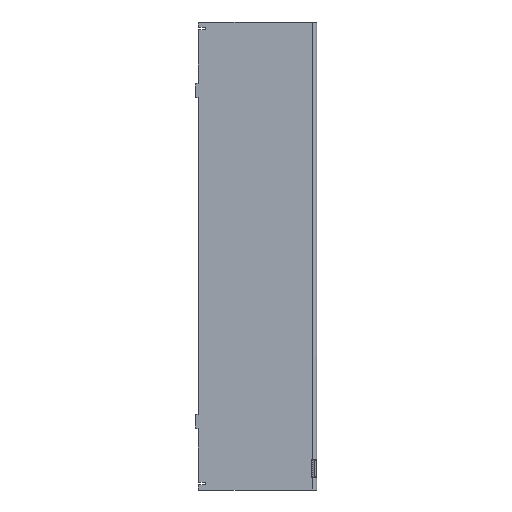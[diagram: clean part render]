
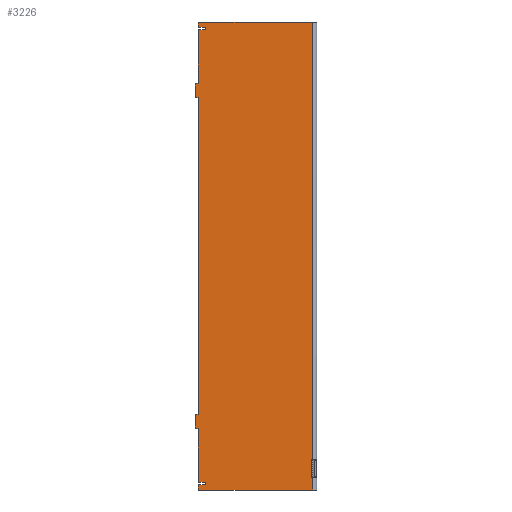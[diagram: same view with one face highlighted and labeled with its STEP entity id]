
A CAD part, left-side view. The second image highlights one B-rep face of the part: STEP entity #3226.
In plain terms, the highlighted planar face has unit normal (-1, 0, 0).
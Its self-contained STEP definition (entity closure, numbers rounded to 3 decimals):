
#33=DIRECTION('',(0.,-1.,0.));
#34=VECTOR('',#33,158.);
#35=CARTESIAN_POINT('',(-132.5,164.,-325.));
#36=LINE('',#35,#34);
#217=CARTESIAN_POINT('',(-132.5,6.,-283.5));
#218=DIRECTION('',(1.,0.,0.));
#219=DIRECTION('',(0.,1.,0.));
#220=AXIS2_PLACEMENT_3D('',#217,#218,#219);
#240=CARTESIAN_POINT('',(-132.5,6.,-306.5));
#241=DIRECTION('',(1.,0.,0.));
#242=DIRECTION('',(0.,0.,-1.));
#243=AXIS2_PLACEMENT_3D('',#240,#241,#242);
#318=DIRECTION('',(0.,0.,1.));
#319=VECTOR('',#318,607.5);
#320=CARTESIAN_POINT('',(-132.5,6.,-282.5));
#321=LINE('',#320,#319);
#331=DIRECTION('',(0.,0.,1.));
#332=VECTOR('',#331,17.5);
#333=CARTESIAN_POINT('',(-132.5,6.,-325.));
#334=LINE('',#333,#332);
#1079=DIRECTION('',(0.,0.,-1.));
#1080=VECTOR('',#1079,23.);
#1081=CARTESIAN_POINT('',(-132.5,7.,-283.5));
#1082=LINE('',#1081,#1080);
#1083=CARTESIAN_POINT('',(-132.5,164.,-324.));
#1084=DIRECTION('',(-1.,0.,0.));
#1085=DIRECTION('',(0.,1.,0.));
#1086=AXIS2_PLACEMENT_3D('',#1083,#1084,#1085);
#1088=DIRECTION('',(0.,0.,1.));
#1089=VECTOR('',#1088,5.);
#1090=CARTESIAN_POINT('',(-132.5,165.,-324.));
#1091=LINE('',#1090,#1089);
#1092=CARTESIAN_POINT('',(-132.5,164.,-319.));
#1093=DIRECTION('',(-1.,0.,0.));
#1094=DIRECTION('',(0.,0.,1.));
#1095=AXIS2_PLACEMENT_3D('',#1092,#1093,#1094);
#1097=DIRECTION('',(0.,-1.,0.));
#1098=VECTOR('',#1097,9.);
#1099=CARTESIAN_POINT('',(-132.5,164.,-318.));
#1100=LINE('',#1099,#1098);
#1101=DIRECTION('',(0.,0.,1.));
#1102=VECTOR('',#1101,4.);
#1103=CARTESIAN_POINT('',(-132.5,155.,-318.));
#1104=LINE('',#1103,#1102);
#1105=DIRECTION('',(0.,-1.,0.));
#1106=VECTOR('',#1105,9.);
#1107=CARTESIAN_POINT('',(-132.5,164.,-314.));
#1108=LINE('',#1107,#1106);
#1109=CARTESIAN_POINT('',(-132.5,164.,-313.));
#1110=DIRECTION('',(-1.,0.,0.));
#1111=DIRECTION('',(0.,1.,0.));
#1112=AXIS2_PLACEMENT_3D('',#1109,#1110,#1111);
#1114=DIRECTION('',(0.,0.,1.));
#1115=VECTOR('',#1114,73.);
#1116=CARTESIAN_POINT('',(-132.5,165.,-313.));
#1117=LINE('',#1116,#1115);
#1118=DIRECTION('',(0.,-1.,0.));
#1119=VECTOR('',#1118,3.);
#1120=CARTESIAN_POINT('',(-132.5,168.,-240.));
#1121=LINE('',#1120,#1119);
#1122=CARTESIAN_POINT('',(-132.5,168.,-239.));
#1123=DIRECTION('',(-1.,0.,0.));
#1124=DIRECTION('',(0.,1.,0.));
#1125=AXIS2_PLACEMENT_3D('',#1122,#1123,#1124);
#1127=DIRECTION('',(0.,0.,-1.));
#1128=VECTOR('',#1127,18.);
#1129=CARTESIAN_POINT('',(-132.5,169.,-221.));
#1130=LINE('',#1129,#1128);
#1131=CARTESIAN_POINT('',(-132.5,168.,-221.));
#1132=DIRECTION('',(-1.,0.,0.));
#1133=DIRECTION('',(0.,0.,1.));
#1134=AXIS2_PLACEMENT_3D('',#1131,#1132,#1133);
#1136=DIRECTION('',(0.,1.,0.));
#1137=VECTOR('',#1136,3.);
#1138=CARTESIAN_POINT('',(-132.5,165.,-220.));
#1139=LINE('',#1138,#1137);
#1140=DIRECTION('',(0.,0.,1.));
#1141=VECTOR('',#1140,440.);
#1142=CARTESIAN_POINT('',(-132.5,165.,-220.));
#1143=LINE('',#1142,#1141);
#1144=DIRECTION('',(0.,-1.,0.));
#1145=VECTOR('',#1144,3.);
#1146=CARTESIAN_POINT('',(-132.5,168.,220.));
#1147=LINE('',#1146,#1145);
#1148=CARTESIAN_POINT('',(-132.5,168.,221.));
#1149=DIRECTION('',(-1.,0.,0.));
#1150=DIRECTION('',(0.,1.,0.));
#1151=AXIS2_PLACEMENT_3D('',#1148,#1149,#1150);
#1153=DIRECTION('',(0.,0.,-1.));
#1154=VECTOR('',#1153,18.);
#1155=CARTESIAN_POINT('',(-132.5,169.,239.));
#1156=LINE('',#1155,#1154);
#1157=CARTESIAN_POINT('',(-132.5,168.,239.));
#1158=DIRECTION('',(-1.,0.,0.));
#1159=DIRECTION('',(0.,0.,1.));
#1160=AXIS2_PLACEMENT_3D('',#1157,#1158,#1159);
#1162=DIRECTION('',(0.,1.,0.));
#1163=VECTOR('',#1162,3.);
#1164=CARTESIAN_POINT('',(-132.5,165.,240.));
#1165=LINE('',#1164,#1163);
#1166=DIRECTION('',(0.,0.,1.));
#1167=VECTOR('',#1166,73.);
#1168=CARTESIAN_POINT('',(-132.5,165.,240.));
#1169=LINE('',#1168,#1167);
#1170=CARTESIAN_POINT('',(-132.5,164.,313.));
#1171=DIRECTION('',(-1.,0.,0.));
#1172=DIRECTION('',(0.,0.,1.));
#1173=AXIS2_PLACEMENT_3D('',#1170,#1171,#1172);
#1175=DIRECTION('',(0.,-1.,0.));
#1176=VECTOR('',#1175,9.);
#1177=CARTESIAN_POINT('',(-132.5,164.,314.));
#1178=LINE('',#1177,#1176);
#1179=DIRECTION('',(0.,0.,1.));
#1180=VECTOR('',#1179,4.);
#1181=CARTESIAN_POINT('',(-132.5,155.,314.));
#1182=LINE('',#1181,#1180);
#1183=DIRECTION('',(0.,-1.,0.));
#1184=VECTOR('',#1183,9.);
#1185=CARTESIAN_POINT('',(-132.5,164.,318.));
#1186=LINE('',#1185,#1184);
#1187=CARTESIAN_POINT('',(-132.5,164.,319.));
#1188=DIRECTION('',(-1.,0.,0.));
#1189=DIRECTION('',(0.,1.,0.));
#1190=AXIS2_PLACEMENT_3D('',#1187,#1188,#1189);
#1192=DIRECTION('',(0.,0.,1.));
#1193=VECTOR('',#1192,5.);
#1194=CARTESIAN_POINT('',(-132.5,165.,319.));
#1195=LINE('',#1194,#1193);
#1196=CARTESIAN_POINT('',(-132.5,164.,324.));
#1197=DIRECTION('',(-1.,0.,0.));
#1198=DIRECTION('',(0.,0.,1.));
#1199=AXIS2_PLACEMENT_3D('',#1196,#1197,#1198);
#1331=DIRECTION('',(0.,-1.,0.));
#1332=VECTOR('',#1331,158.);
#1333=CARTESIAN_POINT('',(-132.5,164.,325.));
#1334=LINE('',#1333,#1332);
#1397=CARTESIAN_POINT('',(-132.5,6.,-325.));
#1399=VERTEX_POINT('',#1397);
#1413=CARTESIAN_POINT('',(-132.5,6.,325.));
#1415=VERTEX_POINT('',#1413);
#1477=CARTESIAN_POINT('',(-132.5,155.,-318.));
#1478=CARTESIAN_POINT('',(-132.5,155.,-314.));
#1479=VERTEX_POINT('',#1477);
#1480=VERTEX_POINT('',#1478);
#1481=CARTESIAN_POINT('',(-132.5,155.,314.));
#1482=CARTESIAN_POINT('',(-132.5,155.,318.));
#1483=VERTEX_POINT('',#1481);
#1484=VERTEX_POINT('',#1482);
#1513=CARTESIAN_POINT('',(-132.5,164.,314.));
#1514=VERTEX_POINT('',#1513);
#1515=CARTESIAN_POINT('',(-132.5,165.,313.));
#1516=VERTEX_POINT('',#1515);
#1517=CARTESIAN_POINT('',(-132.5,165.,319.));
#1518=CARTESIAN_POINT('',(-132.5,164.,318.));
#1519=VERTEX_POINT('',#1517);
#1520=VERTEX_POINT('',#1518);
#1557=CARTESIAN_POINT('',(-132.5,165.,-313.));
#1558=CARTESIAN_POINT('',(-132.5,164.,-314.));
#1559=VERTEX_POINT('',#1557);
#1560=VERTEX_POINT('',#1558);
#1569=CARTESIAN_POINT('',(-132.5,164.,-318.));
#1570=VERTEX_POINT('',#1569);
#1571=CARTESIAN_POINT('',(-132.5,165.,-319.));
#1572=VERTEX_POINT('',#1571);
#1577=CARTESIAN_POINT('',(-132.5,165.,-324.));
#1578=VERTEX_POINT('',#1577);
#1579=CARTESIAN_POINT('',(-132.5,164.,-325.));
#1580=VERTEX_POINT('',#1579);
#1597=CARTESIAN_POINT('',(-132.5,164.,325.));
#1598=CARTESIAN_POINT('',(-132.5,165.,324.));
#1599=VERTEX_POINT('',#1597);
#1600=VERTEX_POINT('',#1598);
#1606=CARTESIAN_POINT('',(-132.5,165.,-220.));
#1608=VERTEX_POINT('',#1606);
#1610=CARTESIAN_POINT('',(-132.5,165.,-240.));
#1612=VERTEX_POINT('',#1610);
#1614=CARTESIAN_POINT('',(-132.5,165.,240.));
#1616=VERTEX_POINT('',#1614);
#1618=CARTESIAN_POINT('',(-132.5,165.,220.));
#1620=VERTEX_POINT('',#1618);
#1737=CARTESIAN_POINT('',(-132.5,169.,-239.));
#1738=VERTEX_POINT('',#1737);
#1739=CARTESIAN_POINT('',(-132.5,168.,-240.));
#1740=VERTEX_POINT('',#1739);
#1745=CARTESIAN_POINT('',(-132.5,168.,-220.));
#1746=VERTEX_POINT('',#1745);
#1747=CARTESIAN_POINT('',(-132.5,169.,-221.));
#1748=VERTEX_POINT('',#1747);
#1769=CARTESIAN_POINT('',(-132.5,169.,221.));
#1770=VERTEX_POINT('',#1769);
#1771=CARTESIAN_POINT('',(-132.5,168.,220.));
#1772=VERTEX_POINT('',#1771);
#1777=CARTESIAN_POINT('',(-132.5,168.,240.));
#1778=VERTEX_POINT('',#1777);
#1779=CARTESIAN_POINT('',(-132.5,169.,239.));
#1780=VERTEX_POINT('',#1779);
#1781=CARTESIAN_POINT('',(-132.5,7.,-283.5));
#1783=VERTEX_POINT('',#1781);
#1785=CARTESIAN_POINT('',(-132.5,6.,-282.5));
#1787=VERTEX_POINT('',#1785);
#1798=CARTESIAN_POINT('',(-132.5,7.,-306.5));
#1800=VERTEX_POINT('',#1798);
#1802=CARTESIAN_POINT('',(-132.5,6.,-307.5));
#1804=VERTEX_POINT('',#1802);
#3160=CARTESIAN_POINT('',(-132.5,165.,-325.));
#3161=DIRECTION('',(-1.,0.,0.));
#3162=DIRECTION('',(0.,-1.,0.));
#3163=AXIS2_PLACEMENT_3D('',#3160,#3161,#3162);
#3164=PLANE('',#3163);
#3165=ORIENTED_EDGE('',*,*,#2013,.T.);
#3166=ORIENTED_EDGE('',*,*,#2027,.F.);
#3167=ORIENTED_EDGE('',*,*,#2122,.F.);
#3168=ORIENTED_EDGE('',*,*,#1828,.F.);
#3169=ORIENTED_EDGE('',*,*,#1862,.F.);
#3171=ORIENTED_EDGE('',*,*,#3170,.T.);
#3173=ORIENTED_EDGE('',*,*,#3172,.F.);
#3175=ORIENTED_EDGE('',*,*,#3174,.T.);
#3177=ORIENTED_EDGE('',*,*,#3176,.T.);
#3179=ORIENTED_EDGE('',*,*,#3178,.F.);
#3181=ORIENTED_EDGE('',*,*,#3180,.F.);
#3183=ORIENTED_EDGE('',*,*,#3182,.T.);
#3185=ORIENTED_EDGE('',*,*,#3184,.F.);
#3187=ORIENTED_EDGE('',*,*,#3186,.F.);
#3189=ORIENTED_EDGE('',*,*,#3188,.F.);
#3191=ORIENTED_EDGE('',*,*,#3190,.F.);
#3193=ORIENTED_EDGE('',*,*,#3192,.F.);
#3195=ORIENTED_EDGE('',*,*,#3194,.T.);
#3197=ORIENTED_EDGE('',*,*,#3196,.F.);
#3199=ORIENTED_EDGE('',*,*,#3198,.F.);
#3201=ORIENTED_EDGE('',*,*,#3200,.F.);
#3203=ORIENTED_EDGE('',*,*,#3202,.F.);
#3205=ORIENTED_EDGE('',*,*,#3204,.F.);
#3207=ORIENTED_EDGE('',*,*,#3206,.T.);
#3209=ORIENTED_EDGE('',*,*,#3208,.F.);
#3211=ORIENTED_EDGE('',*,*,#3210,.T.);
#3213=ORIENTED_EDGE('',*,*,#3212,.T.);
#3214=ORIENTED_EDGE('',*,*,#3125,.F.);
#3215=ORIENTED_EDGE('',*,*,#3151,.F.);
#3217=ORIENTED_EDGE('',*,*,#3216,.T.);
#3219=ORIENTED_EDGE('',*,*,#3218,.F.);
#3221=ORIENTED_EDGE('',*,*,#3220,.T.);
#3222=ORIENTED_EDGE('',*,*,#2105,.F.);
#3223=ORIENTED_EDGE('',*,*,#1997,.F.);
#3224=EDGE_LOOP('',(#3165,#3166,#3167,#3168,#3169,#3171,#3173,#3175,#3177,#3179,
#3181,#3183,#3185,#3187,#3189,#3191,#3193,#3195,#3197,#3199,#3201,#3203,#3205,
#3207,#3209,#3211,#3213,#3214,#3215,#3217,#3219,#3221,#3222,#3223));
#3225=FACE_OUTER_BOUND('',#3224,.F.);
#221=CIRCLE('',#220,1.);
#244=CIRCLE('',#243,1.);
#1087=CIRCLE('',#1086,1.);
#1096=CIRCLE('',#1095,1.);
#1113=CIRCLE('',#1112,1.);
#1126=CIRCLE('',#1125,1.);
#1135=CIRCLE('',#1134,1.);
#1152=CIRCLE('',#1151,1.);
#1161=CIRCLE('',#1160,1.);
#1174=CIRCLE('',#1173,1.);
#1191=CIRCLE('',#1190,1.);
#1200=CIRCLE('',#1199,1.);
#1828=EDGE_CURVE('',#1580,#1399,#36,.T.);
#1862=EDGE_CURVE('',#1578,#1580,#1087,.T.);
#1997=EDGE_CURVE('',#1783,#1787,#221,.T.);
#2013=EDGE_CURVE('',#1783,#1800,#1082,.T.);
#2027=EDGE_CURVE('',#1804,#1800,#244,.T.);
#2105=EDGE_CURVE('',#1787,#1415,#321,.T.);
#2122=EDGE_CURVE('',#1399,#1804,#334,.T.);
#3125=EDGE_CURVE('',#1520,#1484,#1186,.T.);
#3151=EDGE_CURVE('',#1519,#1520,#1191,.T.);
#3170=EDGE_CURVE('',#1578,#1572,#1091,.T.);
#3172=EDGE_CURVE('',#1570,#1572,#1096,.T.);
#3174=EDGE_CURVE('',#1570,#1479,#1100,.T.);
#3176=EDGE_CURVE('',#1479,#1480,#1104,.T.);
#3178=EDGE_CURVE('',#1560,#1480,#1108,.T.);
#3180=EDGE_CURVE('',#1559,#1560,#1113,.T.);
#3182=EDGE_CURVE('',#1559,#1612,#1117,.T.);
#3184=EDGE_CURVE('',#1740,#1612,#1121,.T.);
#3186=EDGE_CURVE('',#1738,#1740,#1126,.T.);
#3188=EDGE_CURVE('',#1748,#1738,#1130,.T.);
#3190=EDGE_CURVE('',#1746,#1748,#1135,.T.);
#3192=EDGE_CURVE('',#1608,#1746,#1139,.T.);
#3194=EDGE_CURVE('',#1608,#1620,#1143,.T.);
#3196=EDGE_CURVE('',#1772,#1620,#1147,.T.);
#3198=EDGE_CURVE('',#1770,#1772,#1152,.T.);
#3200=EDGE_CURVE('',#1780,#1770,#1156,.T.);
#3202=EDGE_CURVE('',#1778,#1780,#1161,.T.);
#3204=EDGE_CURVE('',#1616,#1778,#1165,.T.);
#3206=EDGE_CURVE('',#1616,#1516,#1169,.T.);
#3208=EDGE_CURVE('',#1514,#1516,#1174,.T.);
#3210=EDGE_CURVE('',#1514,#1483,#1178,.T.);
#3212=EDGE_CURVE('',#1483,#1484,#1182,.T.);
#3216=EDGE_CURVE('',#1519,#1600,#1195,.T.);
#3218=EDGE_CURVE('',#1599,#1600,#1200,.T.);
#3220=EDGE_CURVE('',#1599,#1415,#1334,.T.);
#3226=ADVANCED_FACE('',(#3225),#3164,.T.);
